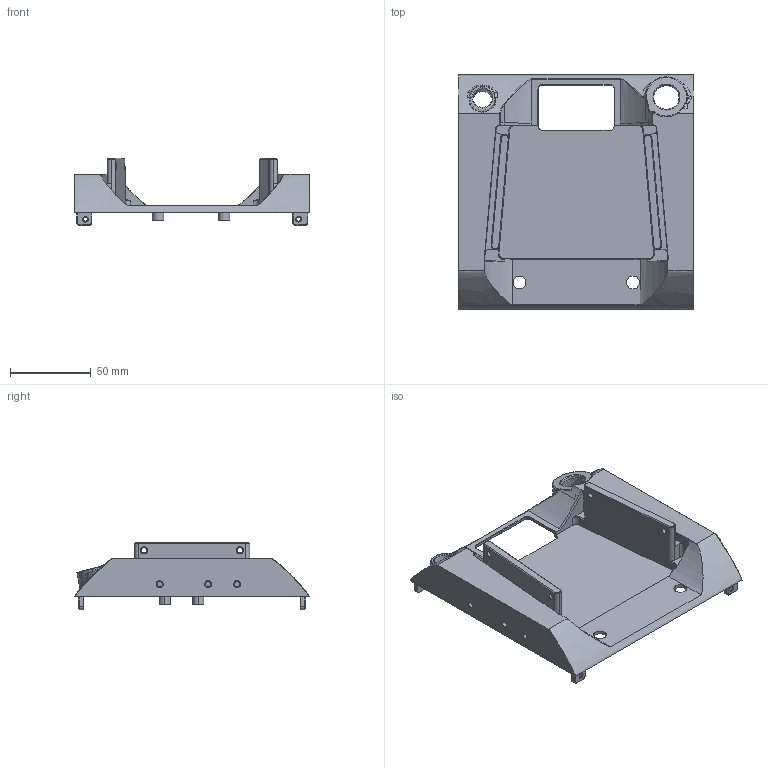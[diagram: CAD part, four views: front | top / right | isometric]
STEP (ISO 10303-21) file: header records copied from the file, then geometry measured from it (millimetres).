
FILE_DESCRIPTION((''),'2;1');
FILE_NAME('TOU-XK_3_1_1','2025-07-12T10:53:00',('Administrator'),(''),'CREO PARAMETRIC BY PTC INC, 2022073','CREO PARAMETRIC BY PTC INC, 2022073','');
FILE_SCHEMA(('CONFIG_CONTROL_DESIGN'));
Length unit declared in the file: millimetre
Products named in the file (1): TOU-XK_3_1_1
Bounding box: 146 x 145 x 41.77 mm (x, y, z)
Volume: 101679.9 mm3; surface area: 74463.3 mm2
Topology: 1 solids, 1 shells, 655 faces, 1763 edges, 1113 vertices
Faces by surface type: plane 251, cylinder 186, cone 127, bspline 62, extrusion 22, torus 5, sphere 2
Entity records: 32569 total; most frequent: CARTESIAN_POINT 16511, ORIENTED_EDGE 3522, DIRECTION 3123, EDGE_CURVE 1761, VERTEX_POINT 1113, AXIS2_PLACEMENT_3D 1092, VECTOR 939, LINE 917
